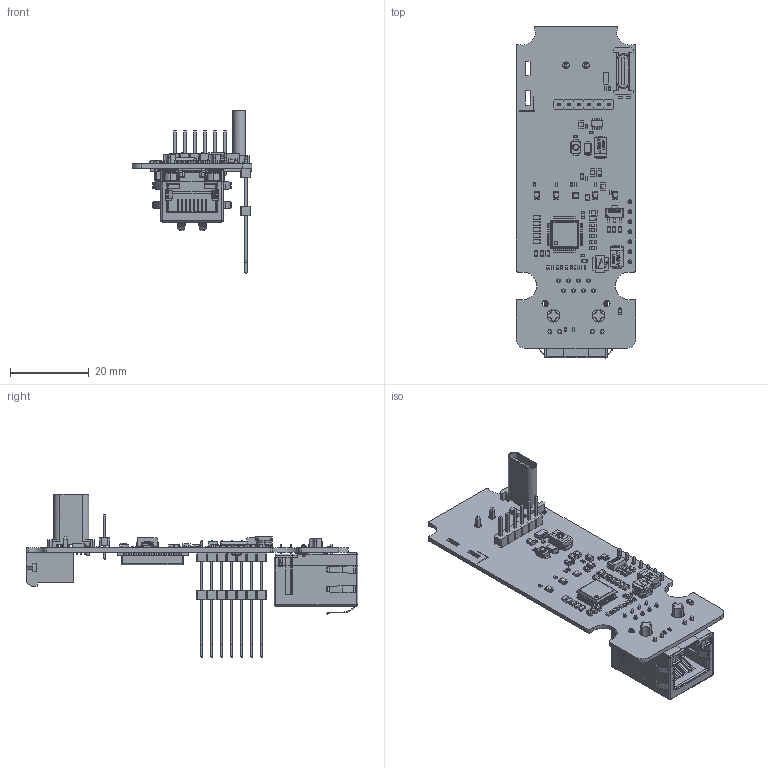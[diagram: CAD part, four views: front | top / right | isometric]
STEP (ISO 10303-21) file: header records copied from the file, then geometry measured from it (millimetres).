
FILE_DESCRIPTION(('Open CASCADE Model'),'2;1');
FILE_NAME('Open CASCADE Shape Model','2026-11-26T12:20:06',('Author'),( 'Open CASCADE'),'Open CASCADE STEP processor 7.5','Open CASCADE 7.5' ,'Unknown');
FILE_SCHEMA(('AUTOMOTIVE_DESIGN { 1 0 10303 214 1 1 1 1 }'));
Length unit declared in the file: millimetre
Products named in the file (142): Open CASCADE STEP translator 7.5 335; Open CASCADE STEP translator 7.5 336; Open CASCADE STEP translator 7.5 337; Open CASCADE STEP translator 7.5 338; Open CASCADE STEP translator 7.5 339; Open CASCADE STEP translator 7.5 340; Open CASCADE STEP translator 7.5 341; Open CASCADE STEP translator 7.5 342; Open CASCADE STEP translator 7.5 343; Open CASCADE STEP translator 7.5 344; Open CASCADE STEP translator 7.5 345; Open CASCADE STEP translator 7.5 346; Open CASCADE STEP translator 7.5 347; Open CASCADE STEP translator 7.5 348; Open CASCADE STEP translator 7.5 349; Open CASCADE STEP translator 7.5 350; Open CASCADE STEP translator 7.5 351; Open CASCADE STEP translator 7.5 352; Open CASCADE STEP translator 7.5 353; Open CASCADE STEP translator 7.5 354; Open CASCADE STEP translator 7.5 355; Open CASCADE STEP translator 7.5 356; Open CASCADE STEP translator 7.5 357; Open CASCADE STEP translator 7.5 358; Open CASCADE STEP translator 7.5 359; Open CASCADE STEP translator 7.5 360; Open CASCADE STEP translator 7.5 361; Open CASCADE STEP translator 7.5 362; Open CASCADE STEP translator 7.5 363; Open CASCADE STEP translator 7.5 364; Open CASCADE STEP translator 7.5 365; Open CASCADE STEP translator 7.5 366; Open CASCADE STEP translator 7.5 367; Open CASCADE STEP translator 7.5 368; Open CASCADE STEP translator 7.5 369; Open CASCADE STEP translator 7.5 370; Open CASCADE STEP translator 7.5 371; Open CASCADE STEP translator 7.5 372; Open CASCADE STEP translator 7.5 373; Open CASCADE STEP translator 7.5 374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
Bounding box: 30.5 x 84.42 x 41.7 mm (x, y, z)
Volume: 7936.2 mm3; surface area: 18379.2 mm2
Topology: 471 solids, 471 shells, 8076 faces, 19932 edges, 12616 vertices
Faces by surface type: plane 5790, cylinder 1269, bspline 664, sphere 288, torus 48, cone 17
Full cylindrical faces by diameter (mm): 0.197 x1, 0.5 x12, 0.65 x1, 0.75 x1, 0.875 x1, 0.9 x8, 0.95 x7, 1.02 x4, 1.1 x6, 1.5 x1, 1.579 x1, 1.6 x2, 1.7 x2, 2.75 x2, 3.25 x2
Entity records: 266272 total; most frequent: CARTESIAN_POINT 59221, ORIENTED_EDGE 39344, DIRECTION 35949, EDGE_CURVE 19672, LINE 15599, VECTOR 15599, VERTEX_POINT 12616, AXIS2_PLACEMENT_3D 10175
